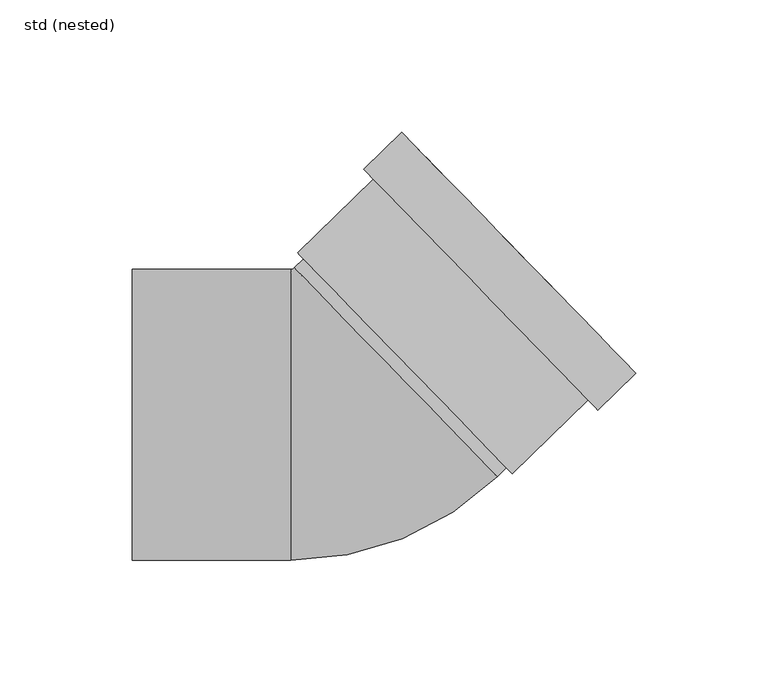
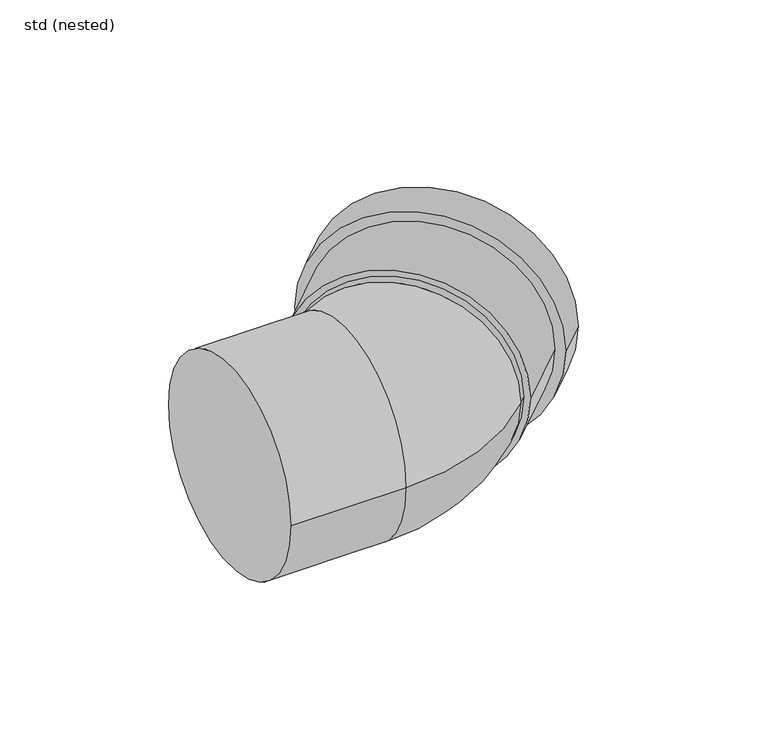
"""IFC4 building model written with IfcOpenShell, lengths in millimetres: pipe fitting geometry, NLRS_52_PIF_UN_SN4 SN8 bocht -SH_Dyka : std (nested)."""

from ifc_helpers import new_model, si_unit, point, frame, origin, place, context, project, spatial, polyline, circle_curve, ellipse_curve, trimmed, source, transform, mapped, element, save
from ifc_brep_helpers import plane_surface, cylinder_surface, revolved_surface, advanced_brep


def std_nested_64751aae(model_context):
    return source(origin(), model_context, "Body", "AdvancedBrep", [
        advanced_brep(
        [(18.8366282, 106.8710973, 0.0), (107.3608524, 15.8081425, 0.0), (24.7614779, 100.7763326, 0.0), (101.4360028, 21.9029072, 0.0), (10.4208551, 86.8355099, 0.0), (87.09538, 7.9620845, 0.0), (4.4960054, 92.9302746, 0.0), (93.0202296, 1.8673198, 0.0), (-20.4909222, 61.2483641, 0.0), (60.644666, -22.2140606, 0.0), (-18.2603905, 58.9538645, 0.0), (58.4141344, -19.9195609, 0.0), (89.3259116, 5.6675849, 0.0), (8.1903234, 89.1300095, 0.0)],
        [
            (0, 1, circle_curve(frame((63.0987403, 61.3396199, 0.0), z_axis=(0.7170311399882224, 0.6970411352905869, 0.0), x_axis=(0.6970411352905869, -0.7170311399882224, 0.0)), 63.5)),
            (1, 0, circle_curve(frame((63.0987403, 61.3396199, 0.0), z_axis=(0.7170311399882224, 0.6970411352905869, 0.0), x_axis=(0.6970411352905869, -0.7170311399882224, 0.0)), 63.5)),
            (2, 3, circle_curve(frame((63.0987403, 61.3396199, 0.0), z_axis=(-0.7170311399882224, -0.6970411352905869, 0.0), x_axis=(0.6970411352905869, -0.7170311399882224, 0.0)), 55.0)),
            (3, 2, circle_curve(frame((63.0987403, 61.3396199, 0.0), z_axis=(-0.7170311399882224, -0.6970411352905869, 0.0), x_axis=(0.6970411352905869, -0.7170311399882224, 0.0)), 55.0)),
            (2, 4),
            (4, 5, circle_curve(frame((48.7581175, 47.3987972, 0.0), z_axis=(-0.7170311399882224, -0.6970411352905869, 0.0), x_axis=(0.6970411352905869, -0.7170311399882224, 0.0)), 55.0)),
            (5, 3),
            (5, 4, circle_curve(frame((48.7581175, 47.3987972, 0.0), z_axis=(-0.7170311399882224, -0.6970411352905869, 0.0), x_axis=(0.6970411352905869, -0.7170311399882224, 0.0)), 55.0)),
            (0, 6),
            (6, 7, circle_curve(frame((48.7581175, 47.3987972, 0.0), z_axis=(0.7170311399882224, 0.6970411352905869, 0.0), x_axis=(0.6970411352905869, -0.7170311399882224, 0.0)), 63.5)),
            (7, 1),
            (7, 6, circle_curve(frame((48.7581175, 47.3987972, 0.0), z_axis=(0.7170311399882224, 0.6970411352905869, 0.0), x_axis=(0.6970411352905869, -0.7170311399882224, 0.0)), 63.5)),
            (8, 9, circle_curve(frame((20.0768719, 19.5171518, 0.0), z_axis=(-0.7170311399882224, -0.6970411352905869, 0.0), x_axis=(0.6970411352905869, -0.7170311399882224, 0.0)), 58.2)),
            (9, 8, circle_curve(frame((20.0768719, 19.5171518, 0.0), z_axis=(-0.7170311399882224, -0.6970411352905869, 0.0), x_axis=(0.6970411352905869, -0.7170311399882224, 0.0)), 58.2)),
            (10, 11, circle_curve(frame((20.0768719, 19.5171518, 0.0), z_axis=(0.7170311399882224, 0.6970411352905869, 0.0), x_axis=(0.6970411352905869, -0.7170311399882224, 0.0)), 55.0)),
            (11, 10, circle_curve(frame((20.0768719, 19.5171518, 0.0), z_axis=(0.7170311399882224, 0.6970411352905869, 0.0), x_axis=(0.6970411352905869, -0.7170311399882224, 0.0)), 55.0)),
            (11, 5),
            (4, 10),
            (9, 12),
            (12, 13, circle_curve(frame((48.7581175, 47.3987972, 0.0), z_axis=(-0.7170311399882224, -0.6970411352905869, 0.0), x_axis=(0.6970411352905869, -0.7170311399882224, 0.0)), 58.2)),
            (13, 8),
            (13, 12, circle_curve(frame((48.7581175, 47.3987972, 0.0), z_axis=(-0.7170311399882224, -0.6970411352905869, 0.0), x_axis=(0.6970411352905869, -0.7170311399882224, 0.0)), 58.2)),
        ],
        [
            plane_surface(frame((101.4360028, 21.9029072, 0.0), z_axis=(0.7170311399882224, 0.6970411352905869, 0.0), x_axis=(0.0, 0.0, 1.0))),
            revolved_surface(polyline([(87.09537994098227, 7.962084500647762, 0.0), (101.43600276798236, 21.902907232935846, 0.0)]), (48.7581175, 47.3987972, 0.0), (-0.7170311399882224, -0.6970411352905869, 0.0)),
            cylinder_surface(frame((20.0768719, 19.5171518, 0.0), z_axis=(0.7170311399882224, 0.6970411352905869, 0.0), x_axis=(0.6970411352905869, -0.7170311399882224, 0.0)), 63.5),
            plane_surface(frame((58.4141344, -19.9195609, 0.0), z_axis=(-0.7170311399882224, -0.6970411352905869, 0.0), x_axis=(0.0, 0.0, -1.0))),
            revolved_surface(polyline([(58.41413434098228, -19.919560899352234, 0.0), (87.09537996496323, 7.962084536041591, 0.0)]), (20.0768719, 19.5171518, 0.0), (-0.7170311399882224, -0.6970411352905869, 0.0)),
            cylinder_surface(frame((20.0768719, 19.5171518, 0.0), z_axis=(0.7170311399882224, 0.6970411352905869, 0.0), x_axis=(0.6970411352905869, -0.7170311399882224, 0.0)), 58.2),
            plane_surface(frame((87.09538, 7.9620845, 0.0), z_axis=(-0.7170311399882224, -0.6970411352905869, 0.0), x_axis=(0.0, 0.0, -1.0))),
        ],
        [
            (0, [[1, 2], [3, 4]]),
            (1, [[-3, 5, 6, 7]]),
            (1, [[-4, -7, 8, -5]]),
            (2, [[-1, 9, 10, 11]]),
            (2, [[-2, -11, 12, -9]]),
            (3, [[13, 14], [15, 16]]),
            (4, [[-16, 17, -6, 18]]),
            (4, [[-15, -18, -8, -17]]),
            (5, [[-14, 19, 20, 21]]),
            (5, [[-13, -21, 22, -19]]),
            (6, [[-12, -10], [-20, -22]]),
        ],
    ),
        advanced_brep(
        [(-83.0, -55.0, 0.0), (-83.0, 55.0, 0.0), (-23.1395598, -55.0, 0.0), (-23.1395598, 0.0, 55.0), (-23.1395598, 55.0, 0.0), (-23.1395598, 0.0, -55.0), (-21.7454775, 55.5659377, 0.0), (54.9290474, -23.3074877, 0.0), (16.5917849, 16.129225, 55.0), (16.5917849, 16.129225, -55.0), (-18.2603905, 58.9538645, 0.0), (58.4141344, -19.9195609, 0.0)],
        [
            (0, 1, circle_curve(frame((-83.0, 0.0, 0.0), z_axis=(-1.0, 0.0, 0.0), x_axis=(0.0, 1.0, 0.0)), 55.0)),
            (1, 0, circle_curve(frame((-83.0, 0.0, 0.0), z_axis=(-1.0, 0.0, 0.0), x_axis=(0.0, 1.0, 0.0)), 55.0)),
            (0, 2),
            (2, 3, circle_curve(frame((-23.1395598, 0.0, 0.0), z_axis=(-1.0, 0.0, 0.0), x_axis=(0.0, 1.0, 0.0)), 55.0)),
            (3, 4, circle_curve(frame((-23.1395598, 0.0, 0.0), z_axis=(-1.0, 0.0, 0.0), x_axis=(0.0, 1.0, 0.0)), 55.0)),
            (4, 1),
            (4, 5, circle_curve(frame((-23.1395598, 0.0, 0.0), z_axis=(-1.0, 0.0, 0.0), x_axis=(0.0, 1.0, 0.0)), 55.0)),
            (5, 2, circle_curve(frame((-23.1395598, 0.0, 0.0), z_axis=(-1.0, 0.0, 0.0), x_axis=(0.0, 1.0, 0.0)), 55.0)),
            (6, 4, circle_curve(frame((-23.1395598, 57.0, 0.0), z_axis=(0.0, 0.0, -1.0), x_axis=(0.0, -1.0, 0.0)), 2.0)),
            (2, 7, circle_curve(frame((-23.1395598, 57.0, 0.0), z_axis=(0.0, 0.0, 1.0), x_axis=(0.0, -1.0, 0.0)), 112.0)),
            (7, 8, circle_curve(frame((16.5917849, 16.129225, 0.0), z_axis=(-0.71703113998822, -0.6970411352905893, 0.0), x_axis=(-0.6970411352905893, 0.71703113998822, 0.0)), 55.0)),
            (8, 6, circle_curve(frame((16.5917849, 16.129225, 0.0), z_axis=(-0.71703113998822, -0.6970411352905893, 0.0), x_axis=(-0.6970411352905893, 0.71703113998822, 0.0)), 55.0)),
            (6, 9, circle_curve(frame((16.5917849, 16.129225, 0.0), z_axis=(-0.71703113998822, -0.6970411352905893, 0.0), x_axis=(-0.6970411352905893, 0.71703113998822, 0.0)), 55.0)),
            (9, 7, circle_curve(frame((16.5917849, 16.129225, 0.0), z_axis=(-0.7170311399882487, -0.6970411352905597, 0.0), x_axis=(-0.6970411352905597, 0.7170311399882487, 0.0)), 55.0)),
            (10, 11, circle_curve(frame((20.0768719, 19.5171518, 0.0), z_axis=(0.7170311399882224, 0.6970411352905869, 0.0), x_axis=(0.6970411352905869, -0.7170311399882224, 0.0)), 55.0)),
            (11, 10, circle_curve(frame((20.0768719, 19.5171518, 0.0), z_axis=(0.7170311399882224, 0.6970411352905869, 0.0), x_axis=(0.6970411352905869, -0.7170311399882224, 0.0)), 55.0)),
            (10, 6),
            (7, 11),
        ],
        [
            plane_surface(frame((-83.0, 55.0, 0.0), z_axis=(-1.0, 0.0, 0.0), x_axis=(0.0, 0.0, -1.0))),
            cylinder_surface(frame((-23.1395598, 0.0, 0.0), z_axis=(-1.0, 0.0, 0.0), x_axis=(0.0, 1.0, 0.0)), 55.0),
            revolved_surface(trimmed(ellipse_curve(frame((-23.1395598, 0.0, 0.0), z_axis=(-1.0, 0.0, 0.0), x_axis=(0.0, 1.0, 0.0)), 55.0, 55.0), [point((-23.1395598, -55.0, 0.0))], [point((-23.1395598, 55.0, 0.0))], True, "CARTESIAN"), (-23.1395598, 57.0, 0.0), (0.0, 0.0, 1.0)),
            revolved_surface(trimmed(ellipse_curve(frame((-23.1395598, 0.0, 0.0), z_axis=(-1.0, 0.0, 0.0), x_axis=(0.0, 1.0, 0.0)), 55.0, 55.0), [point((-23.1395598, 55.0, 0.0))], [point((-23.1395598, -55.0, 0.0))], True, "CARTESIAN"), (-23.1395598, 57.0, 0.0), (0.0, 0.0, 1.0)),
            plane_surface(frame((58.4141344, -19.9195609, 0.0), z_axis=(0.7170311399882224, 0.6970411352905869, 0.0), x_axis=(0.0, 0.0, -1.0))),
            cylinder_surface(frame((16.5917849, 16.129225, 0.0), z_axis=(0.7170311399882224, 0.6970411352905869, 0.0), x_axis=(0.6970411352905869, -0.7170311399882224, 0.0)), 55.0),
        ],
        [
            (0, [[1, 2]]),
            (1, [[-1, 3, 4, 5, 6]]),
            (1, [[-2, -6, 7, 8, -3]]),
            (2, [[9, -5, -4, 10, 11, 12]]),
            (3, [[-9, 13, 14, -10, -8, -7]]),
            (4, [[15, 16]]),
            (5, [[-15, 17, -12, -11, 18]]),
            (5, [[-16, -18, -14, -13, -17]]),
        ],
    ),
    ])


if __name__ == "__main__":
    model = new_model("IFC4")
    model_context = context("Model", 3, world=origin())
    ifc_project = project(units=[si_unit("LENGTHUNIT", "METRE", prefix="MILLI")], contexts=[model_context])
    site = spatial("IfcSite", under=ifc_project)
    building = spatial("IfcBuilding", under=site)
    placement = place(None, origin())
    std_nested_shape = std_nested_64751aae(model_context)
    element("IfcPipeFitting", 1, ObjectType="NLRS_52_PIF_UN_SN4 SN8 bocht -SH_Dyka : std (nested)", at=placement, inside=building, context=model_context, shape_type="MappedRepresentation", body=[
        mapped(std_nested_shape, transform((0.0, 0.0, 0.0), x_axis=(1.0, 0.0, 0.0), y_axis=(0.0, 1.0, 0.0), z_axis=(0.0, 0.0, 1.0))),
    ])
    save(model, "model.ifc")
